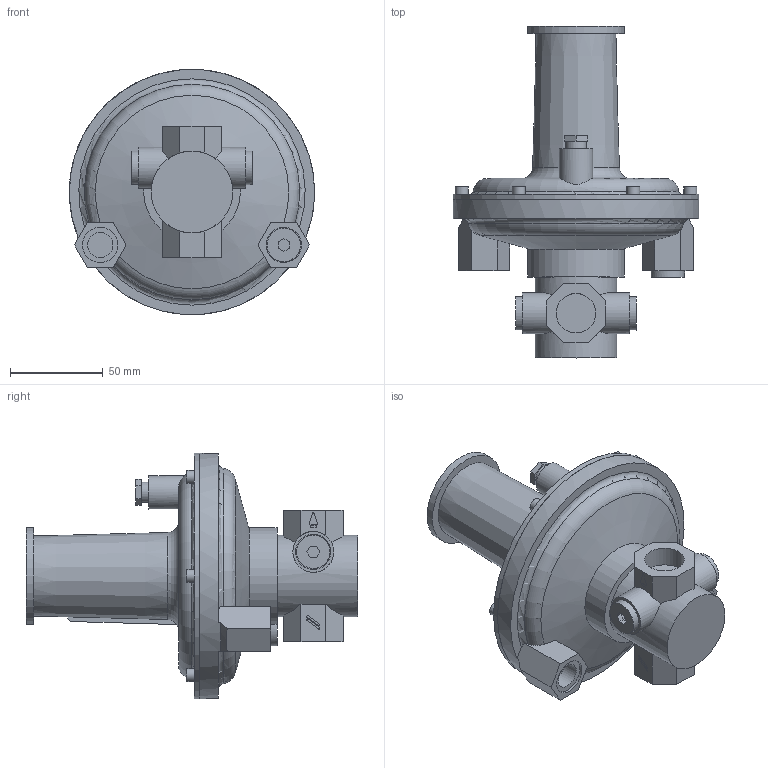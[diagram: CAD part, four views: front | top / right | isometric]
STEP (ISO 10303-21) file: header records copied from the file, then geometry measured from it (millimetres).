
FILE_DESCRIPTION((''),'2;1');
FILE_NAME('F:\AirCom-Produktdokumentation\Regler\RGB4\CAD\CAD AirCom\3D\B-RGB4-04.stp','2007-07-20T13:17:28',('Frank Schroers'),(''),'Autodesk Inventor 2008','Autodesk Inventor 2008','');
FILE_SCHEMA(('AUTOMOTIVE_DESIGN { 1 0 10303 214 1 1 1 1 }'));
Length unit declared in the file: millimetre
Products named in the file (6): model; 74212727_Messwerkunterteil_; 34105768_Gehaeuse__VGBF_15_; 03552302_Verschl.-schr._G1-4_; 74210820_Deckel_; 35428460_ATMUNGSSCHRAUBE_GBF_15-50_
Assembly tree (7 placements, depth 2):
  model
    74212727_Messwerkunterteil_
    34105768_Gehaeuse__VGBF_15_
    03552302_Verschl.-schr._G1-4_  x3
    74210820_Deckel_
    35428460_ATMUNGSSCHRAUBE_GBF_15-50_
Bounding box: 132 x 178.5 x 132 mm (x, y, z)
Volume: 671397.9 mm3; surface area: 107424.5 mm2
Topology: 7 solids, 7 shells, 185 faces, 454 edges, 329 vertices
Faces by surface type: plane 141, cylinder 33, torus 7, cone 4
Full cylindrical faces by diameter (mm): 7 x6, 10.2 x2, 11 x1, 13 x3, 13.5 x4, 18 x4, 19 x4, 21.3 x2, 22 x2, 44 x1, 52 x2, 132 x2
Entity records: 4896 total; most frequent: CARTESIAN_POINT 1041, DIRECTION 733, ORIENTED_EDGE 666, EDGE_CURVE 333, AXIS2_PLACEMENT_3D 274, VERTEX_POINT 270, EDGE_LOOP 225, VECTOR 185
